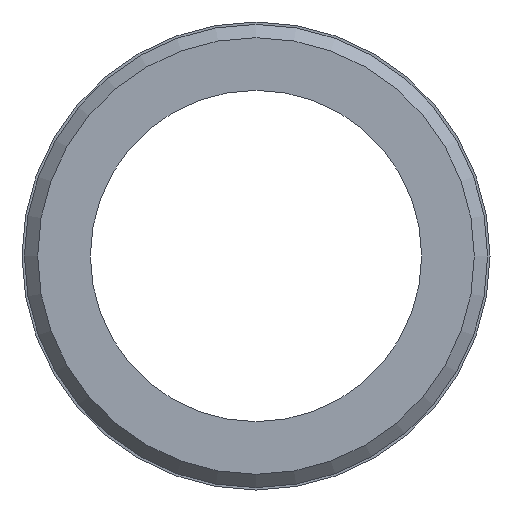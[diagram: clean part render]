
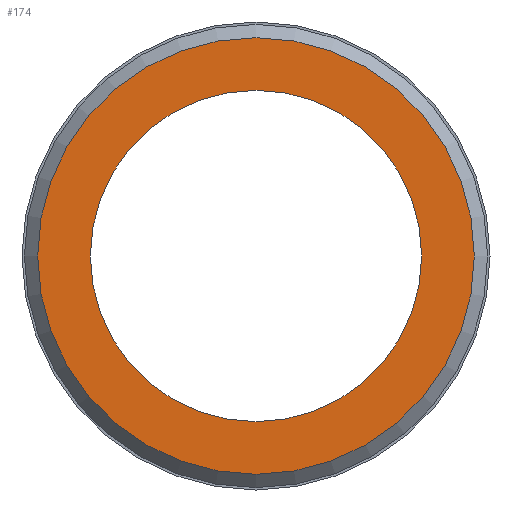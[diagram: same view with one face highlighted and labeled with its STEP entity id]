
A CAD part, front view. The second image highlights one B-rep face of the part: STEP entity #174.
In plain terms, the highlighted planar face has unit normal (0, -1, 0).
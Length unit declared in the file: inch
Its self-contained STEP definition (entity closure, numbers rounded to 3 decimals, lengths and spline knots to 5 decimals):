
#16=FACE_BOUND('',#41,.T.);
#20=PLANE('',#202);
#30=FACE_OUTER_BOUND('',#40,.T.);
#40=EDGE_LOOP('',(#133));
#41=EDGE_LOOP('',(#134,#135));
#62=CIRCLE('',#197,0.2925);
#66=CIRCLE('',#203,0.222);
#67=CIRCLE('',#204,0.222);
#81=VERTEX_POINT('',#292);
#85=VERTEX_POINT('',#304);
#86=VERTEX_POINT('',#305);
#99=EDGE_CURVE('',#81,#81,#62,.T.);
#105=EDGE_CURVE('',#85,#86,#66,.T.);
#106=EDGE_CURVE('',#86,#85,#67,.T.);
#133=ORIENTED_EDGE('',*,*,#99,.F.);
#134=ORIENTED_EDGE('',*,*,#105,.F.);
#135=ORIENTED_EDGE('',*,*,#106,.F.);
#174=ADVANCED_FACE('',(#30,#16),#20,.T.);
#197=AXIS2_PLACEMENT_3D('',#293,#229,#230);
#202=AXIS2_PLACEMENT_3D('',#303,#241,#242);
#203=AXIS2_PLACEMENT_3D('',#306,#243,#244);
#204=AXIS2_PLACEMENT_3D('',#307,#245,#246);
#229=DIRECTION('center_axis',(0.,1.,0.));
#230=DIRECTION('ref_axis',(0.,0.,1.));
#241=DIRECTION('center_axis',(0.,-1.,0.));
#242=DIRECTION('ref_axis',(0.,0.,-1.));
#243=DIRECTION('center_axis',(0.,-1.,0.));
#244=DIRECTION('ref_axis',(1.,0.,0.));
#245=DIRECTION('center_axis',(0.,-1.,0.));
#246=DIRECTION('ref_axis',(1.,0.,0.));
#292=CARTESIAN_POINT('',(0.,0.,-0.2925));
#293=CARTESIAN_POINT('Origin',(0.,0.,0.));
#303=CARTESIAN_POINT('Origin',(0.,0.,-0.222));
#304=CARTESIAN_POINT('',(0.,0.,-0.222));
#305=CARTESIAN_POINT('',(0.,0.,0.222));
#306=CARTESIAN_POINT('Origin',(0.,0.,0.));
#307=CARTESIAN_POINT('Origin',(0.,0.,0.));
